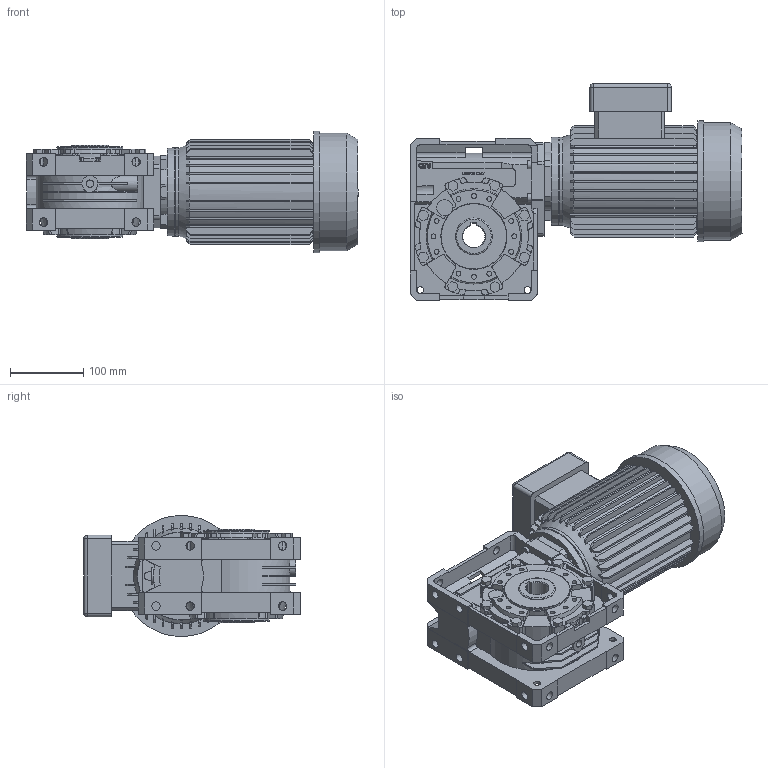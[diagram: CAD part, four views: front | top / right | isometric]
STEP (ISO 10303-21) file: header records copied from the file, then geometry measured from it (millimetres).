
FILE_DESCRIPTION( ( 'Unknown' ), '1' );
FILE_NAME( 'E:/services/configuratordownloads/customers/HYDROMEC/VSFQ/download/EBE73DB38588F61E7A24BFAAA738A63/STEP/EBE73DB38588F61E7A24BFAAA738A63.3d.stp', 'Unknown', ( 'Unknown' ), ( 'Unknown' ), 'PSStep 10.1', 'Unknown', ' ' );
FILE_SCHEMA( ( 'AUTOMOTIVE_DESIGN { 1 0 10303 214 1 1 1 1 }' ) );
Length unit declared in the file: millimetre
Products named in the file (1): Q758800
Bounding box: 452 x 295 x 165 mm (x, y, z)
Volume: 7573786.2 mm3; surface area: 591729.9 mm2
Topology: 1 solids, 20 shells, 1377 faces, 3744 edges, 2486 vertices
Faces by surface type: plane 949, cylinder 315, cone 66, extrusion 40, sphere 4, torus 3
Full cylindrical faces by diameter (mm): 4.917 x6, 6.647 x32, 6.8 x8, 8.75 x8, 9 x4, 10.2 x3, 11.5 x16, 22 x1, 40 x1, 44.5 x1, 50 x2, 62 x1, 90 x1, 120 x1, 130.261 x1, 160 x1, 165 x1
Entity records: 55208 total; most frequent: CARTESIAN_POINT 9347, ORIENTED_EDGE 7202, DIRECTION 7115, EDGE_CURVE 3601, VECTOR 2455, VERTEX_POINT 2449, LINE 2415, AXIS2_PLACEMENT_3D 2330
